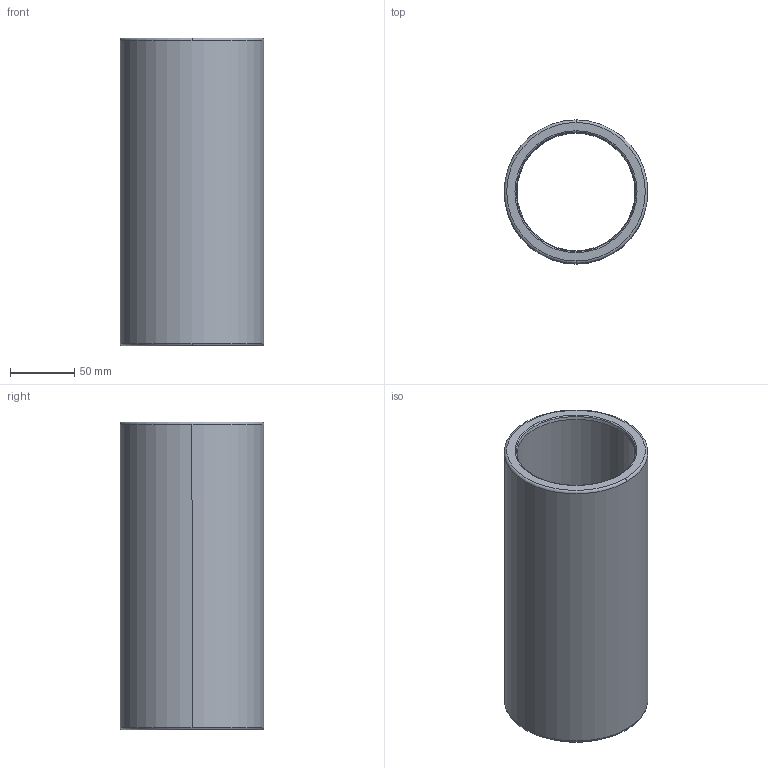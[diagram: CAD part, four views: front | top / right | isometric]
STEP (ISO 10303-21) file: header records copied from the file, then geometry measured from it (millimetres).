
FILE_DESCRIPTION((''),'2;1');
FILE_NAME('B30_080_240.stp','2009-01-12T10:32:40',(''),(''),'Mechanical Desktop 2009','Mechanical Desktop 2009',', , ');
FILE_SCHEMA(('CONFIG_CONTROL_DESIGN'));
Length unit declared in the file: millimetre
Products named in the file (2): Product; blmdl1
Assembly tree (1 placements, depth 2):
  Product
    blmdl1
Bounding box: 111.98 x 111.98 x 240 mm (x, y, z)
Volume: 768316.9 mm3; surface area: 159053.6 mm2
Topology: 1 solids, 1 shells, 18 faces, 48 edges, 32 vertices
Faces by surface type: torus 8, cylinder 4, cone 4, plane 2
Entity records: 705 total; most frequent: DIRECTION 128, CARTESIAN_POINT 100, ORIENTED_EDGE 96, AXIS2_PLACEMENT_3D 60, EDGE_CURVE 48, CIRCLE 40, VERTEX_POINT 32, EDGE_LOOP 20
